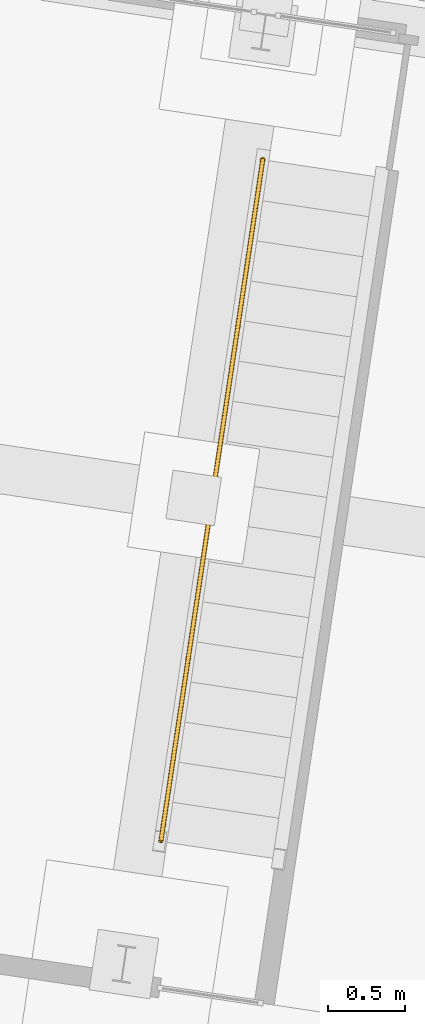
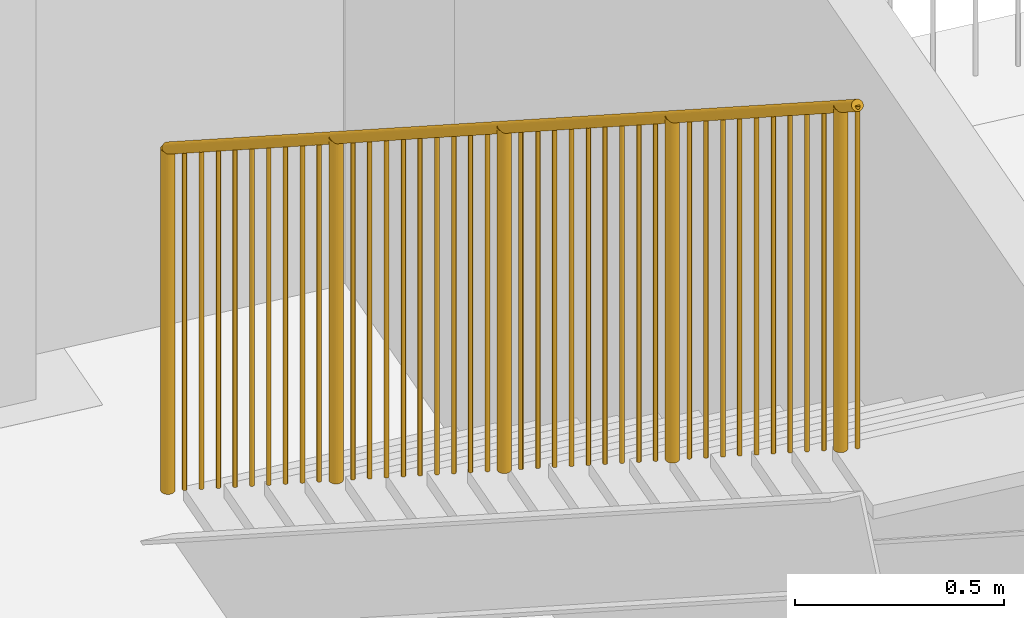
# One storey, part 140 of 143: 1 railing, 1 element without a shape of its own.
"""IFC4 building model written with IfcOpenShell, lengths in metres."""

from ifc_helpers import new_model, si_unit, direction, frame, origin_with_axes, place, context, subcontext, project, spatial, circle, extrude, material, element, aggregate, save


model = new_model("IFC4")

# Units and contexts
model_context = context("Model", 3, precision=1e-05, world=origin_with_axes(), true_north=direction((0.0, 1.0)))
body_context = subcontext(model_context, "Body", "Model", "MODEL_VIEW")
ifc_project = project(units=[si_unit("VOLUMEUNIT", "CUBIC_METRE"), si_unit("LENGTHUNIT", "METRE"), si_unit("AREAUNIT", "SQUARE_METRE")], contexts=[model_context])

# Site, building, storey
site_placement = place(None, origin_with_axes())
site = spatial("IfcSite", under=ifc_project, at=site_placement, Name="Lares · Rua das Mercês · artigo 4771")
building_placement = place(site_placement, frame((15.0, 9.7, 15.8), z_axis=(0.0, 0.0, 1.0), x_axis=(0.989015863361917, -0.147809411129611, 0.0)))
building = spatial("IfcBuilding", under=site, at=building_placement, Name="Casa Sobreposta")
storey_placement = place(building_placement, origin_with_axes())
storey = spatial("IfcBuildingStorey", under=building, at=storey_placement, Name="00 · Habitação e estacionamento", Elevation=15.8)

# Stair, railing
stair_placement = place(storey_placement, origin_with_axes())
stair = element("IfcStair", 1, at=stair_placement, inside=storey, Name="Escada garagem", PredefinedType="STRAIGHT_RUN_STAIR")
ifc_material = material(Name="Aço pintado / Stahl lackiert", Category="steel")
railing_placement = place(stair_placement, origin_with_axes())
railing = element("IfcRailing", 2, at=railing_placement, material=ifc_material, Name="Corrimão garagem", PredefinedType="GUARDRAIL", context=body_context, shape_type="SweptSolid", body=[
    extrude(circle(Radius=0.015), frame((24.12, 5.4525, 1.18), z_axis=(0.0, -0.827216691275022, 0.561883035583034), x_axis=(-1.0, 0.0, 0.0)), (0.0, 0.0, 1.0), 5.44597328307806),
    extrude(circle(Radius=0.0175), frame((24.12, 5.4525, 0.18), z_axis=(0.0, 0.0, 1.0), x_axis=(1.0, 0.0, 0.0)), (0.0, 0.0, 1.0), 1.0),
    extrude(circle(Radius=0.006), frame((24.12, 5.34262195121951, 0.254634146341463), z_axis=(0.0, 0.0, 1.0), x_axis=(1.0, 0.0, 0.0)), (0.0, 0.0, 1.0), 1.0),
    extrude(circle(Radius=0.006), frame((24.12, 5.23274390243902, 0.329268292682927), z_axis=(0.0, 0.0, 1.0), x_axis=(1.0, 0.0, 0.0)), (0.0, 0.0, 1.0), 1.0),
    extrude(circle(Radius=0.006), frame((24.12, 5.12286585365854, 0.40390243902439), z_axis=(0.0, 0.0, 1.0), x_axis=(1.0, 0.0, 0.0)), (0.0, 0.0, 1.0), 1.0),
    extrude(circle(Radius=0.006), frame((24.12, 5.01298780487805, 0.478536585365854), z_axis=(0.0, 0.0, 1.0), x_axis=(1.0, 0.0, 0.0)), (0.0, 0.0, 1.0), 1.0),
    extrude(circle(Radius=0.006), frame((24.12, 4.90310975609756, 0.553170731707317), z_axis=(0.0, 0.0, 1.0), x_axis=(1.0, 0.0, 0.0)), (0.0, 0.0, 1.0), 1.0),
    extrude(circle(Radius=0.006), frame((24.12, 4.79323170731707, 0.62780487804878), z_axis=(0.0, 0.0, 1.0), x_axis=(1.0, 0.0, 0.0)), (0.0, 0.0, 1.0), 1.0),
    extrude(circle(Radius=0.006), frame((24.12, 4.68335365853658, 0.702439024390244), z_axis=(0.0, 0.0, 1.0), x_axis=(1.0, 0.0, 0.0)), (0.0, 0.0, 1.0), 1.0),
    extrude(circle(Radius=0.006), frame((24.12, 4.5734756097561, 0.777073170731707), z_axis=(0.0, 0.0, 1.0), x_axis=(1.0, 0.0, 0.0)), (0.0, 0.0, 1.0), 1.0),
    extrude(circle(Radius=0.006), frame((24.12, 4.46359756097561, 0.851707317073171), z_axis=(0.0, 0.0, 1.0), x_axis=(1.0, 0.0, 0.0)), (0.0, 0.0, 1.0), 1.0),
    extrude(circle(Radius=0.0175), frame((24.12, 4.35371951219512, 0.926341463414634), z_axis=(0.0, 0.0, 1.0), x_axis=(1.0, 0.0, 0.0)), (0.0, 0.0, 1.0), 1.0),
    extrude(circle(Radius=0.006), frame((24.12, 4.24384146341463, 1.0009756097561), z_axis=(0.0, 0.0, 1.0), x_axis=(1.0, 0.0, 0.0)), (0.0, 0.0, 1.0), 1.0),
    extrude(circle(Radius=0.006), frame((24.12, 4.13396341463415, 1.07560975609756), z_axis=(0.0, 0.0, 1.0), x_axis=(1.0, 0.0, 0.0)), (0.0, 0.0, 1.0), 1.0),
    extrude(circle(Radius=0.006), frame((24.12, 4.02408536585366, 1.15024390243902), z_axis=(0.0, 0.0, 1.0), x_axis=(1.0, 0.0, 0.0)), (0.0, 0.0, 1.0), 1.0),
    extrude(circle(Radius=0.006), frame((24.12, 3.91420731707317, 1.22487804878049), z_axis=(0.0, 0.0, 1.0), x_axis=(1.0, 0.0, 0.0)), (0.0, 0.0, 1.0), 1.0),
    extrude(circle(Radius=0.006), frame((24.12, 3.80432926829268, 1.29951219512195), z_axis=(0.0, 0.0, 1.0), x_axis=(1.0, 0.0, 0.0)), (0.0, 0.0, 1.0), 1.0),
    extrude(circle(Radius=0.006), frame((24.12, 3.6944512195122, 1.37414634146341), z_axis=(0.0, 0.0, 1.0), x_axis=(1.0, 0.0, 0.0)), (0.0, 0.0, 1.0), 1.0),
    extrude(circle(Radius=0.006), frame((24.12, 3.58457317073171, 1.44878048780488), z_axis=(0.0, 0.0, 1.0), x_axis=(1.0, 0.0, 0.0)), (0.0, 0.0, 1.0), 1.0),
    extrude(circle(Radius=0.006), frame((24.12, 3.47469512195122, 1.52341463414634), z_axis=(0.0, 0.0, 1.0), x_axis=(1.0, 0.0, 0.0)), (0.0, 0.0, 1.0), 1.0),
    extrude(circle(Radius=0.006), frame((24.12, 3.36481707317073, 1.5980487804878), z_axis=(0.0, 0.0, 1.0), x_axis=(1.0, 0.0, 0.0)), (0.0, 0.0, 1.0), 1.0),
    extrude(circle(Radius=0.0175), frame((24.12, 3.25493902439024, 1.67268292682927), z_axis=(0.0, 0.0, 1.0), x_axis=(1.0, 0.0, 0.0)), (0.0, 0.0, 1.0), 1.0),
    extrude(circle(Radius=0.006), frame((24.12, 3.14506097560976, 1.74731707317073), z_axis=(0.0, 0.0, 1.0), x_axis=(1.0, 0.0, 0.0)), (0.0, 0.0, 1.0), 1.0),
    extrude(circle(Radius=0.006), frame((24.12, 3.03518292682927, 1.8219512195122), z_axis=(0.0, 0.0, 1.0), x_axis=(1.0, 0.0, 0.0)), (0.0, 0.0, 1.0), 1.0),
    extrude(circle(Radius=0.006), frame((24.12, 2.92530487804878, 1.89658536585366), z_axis=(0.0, 0.0, 1.0), x_axis=(1.0, 0.0, 0.0)), (0.0, 0.0, 1.0), 1.0),
    extrude(circle(Radius=0.006), frame((24.12, 2.81542682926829, 1.97121951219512), z_axis=(0.0, 0.0, 1.0), x_axis=(1.0, 0.0, 0.0)), (0.0, 0.0, 1.0), 1.0),
    extrude(circle(Radius=0.006), frame((24.12, 2.7055487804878, 2.04585365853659), z_axis=(0.0, 0.0, 1.0), x_axis=(1.0, 0.0, 0.0)), (0.0, 0.0, 1.0), 1.0),
    extrude(circle(Radius=0.006), frame((24.12, 2.59567073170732, 2.12048780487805), z_axis=(0.0, 0.0, 1.0), x_axis=(1.0, 0.0, 0.0)), (0.0, 0.0, 1.0), 1.0),
    extrude(circle(Radius=0.006), frame((24.12, 2.48579268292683, 2.19512195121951), z_axis=(0.0, 0.0, 1.0), x_axis=(1.0, 0.0, 0.0)), (0.0, 0.0, 1.0), 1.0),
    extrude(circle(Radius=0.006), frame((24.12, 2.37591463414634, 2.26975609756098), z_axis=(0.0, 0.0, 1.0), x_axis=(1.0, 0.0, 0.0)), (0.0, 0.0, 1.0), 1.0),
    extrude(circle(Radius=0.006), frame((24.12, 2.26603658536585, 2.34439024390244), z_axis=(0.0, 0.0, 1.0), x_axis=(1.0, 0.0, 0.0)), (0.0, 0.0, 1.0), 1.0),
    extrude(circle(Radius=0.0175), frame((24.12, 2.15615853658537, 2.4190243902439), z_axis=(0.0, 0.0, 1.0), x_axis=(1.0, 0.0, 0.0)), (0.0, 0.0, 1.0), 1.0),
    extrude(circle(Radius=0.006), frame((24.12, 2.04628048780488, 2.49365853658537), z_axis=(0.0, 0.0, 1.0), x_axis=(1.0, 0.0, 0.0)), (0.0, 0.0, 1.0), 1.0),
    extrude(circle(Radius=0.006), frame((24.12, 1.93640243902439, 2.56829268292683), z_axis=(0.0, 0.0, 1.0), x_axis=(1.0, 0.0, 0.0)), (0.0, 0.0, 1.0), 1.0),
    extrude(circle(Radius=0.006), frame((24.12, 1.8265243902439, 2.64292682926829), z_axis=(0.0, 0.0, 1.0), x_axis=(1.0, 0.0, 0.0)), (0.0, 0.0, 1.0), 1.0),
    extrude(circle(Radius=0.006), frame((24.12, 1.71664634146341, 2.71756097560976), z_axis=(0.0, 0.0, 1.0), x_axis=(1.0, 0.0, 0.0)), (0.0, 0.0, 1.0), 1.0),
    extrude(circle(Radius=0.006), frame((24.12, 1.60676829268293, 2.79219512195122), z_axis=(0.0, 0.0, 1.0), x_axis=(1.0, 0.0, 0.0)), (0.0, 0.0, 1.0), 1.0),
    extrude(circle(Radius=0.006), frame((24.12, 1.49689024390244, 2.86682926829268), z_axis=(0.0, 0.0, 1.0), x_axis=(1.0, 0.0, 0.0)), (0.0, 0.0, 1.0), 1.0),
    extrude(circle(Radius=0.006), frame((24.12, 1.38701219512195, 2.94146341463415), z_axis=(0.0, 0.0, 1.0), x_axis=(1.0, 0.0, 0.0)), (0.0, 0.0, 1.0), 1.0),
    extrude(circle(Radius=0.006), frame((24.12, 1.27713414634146, 3.01609756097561), z_axis=(0.0, 0.0, 1.0), x_axis=(1.0, 0.0, 0.0)), (0.0, 0.0, 1.0), 1.0),
    extrude(circle(Radius=0.006), frame((24.12, 1.16725609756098, 3.09073170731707), z_axis=(0.0, 0.0, 1.0), x_axis=(1.0, 0.0, 0.0)), (0.0, 0.0, 1.0), 1.0),
    extrude(circle(Radius=0.0175), frame((24.12, 1.05737804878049, 3.16536585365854), z_axis=(0.0, 0.0, 1.0), x_axis=(1.0, 0.0, 0.0)), (0.0, 0.0, 1.0), 1.0),
    extrude(circle(Radius=0.006), frame((24.12, 0.9475, 3.24), z_axis=(0.0, 0.0, 1.0), x_axis=(1.0, 0.0, 0.0)), (0.0, 0.0, 1.0), 1.0),
])
aggregate(stair, [railing])

save(model, "model.ifc")
